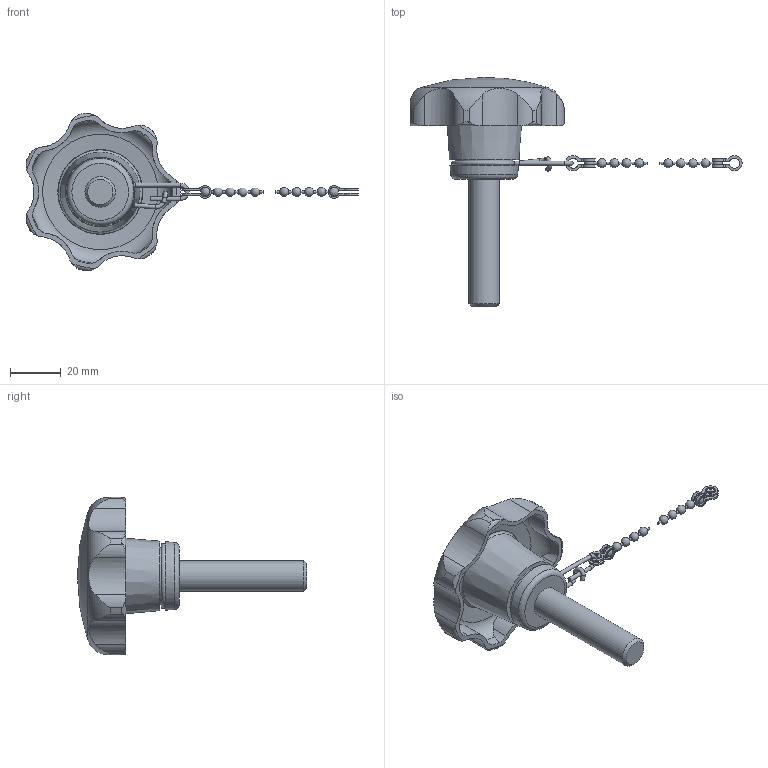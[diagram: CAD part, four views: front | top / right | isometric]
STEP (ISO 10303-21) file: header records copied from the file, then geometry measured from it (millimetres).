
FILE_DESCRIPTION( ( 'STEP AP203' ), '1' );
FILE_NAME( 'C:/Temp/Ganter_Step_05_03_2020/data/2_2/gn_6336_13/gn_6336_13_2/Star knob GN 6336.13-63-M12-50-K.stp', '2020-03-05T12:12:40', ( 'License CC BY-ND 4.0' ), ( 'CADENAS' ), ' ', 'PARTsolutions', ' ' );
FILE_SCHEMA( ( 'CONFIG_CONTROL_DESIGN' ) );
Length unit declared in the file: millimetre
Products named in the file (3): Star knob GN 6336.13-63-M12-50-K; _Star knob GN 6336.13-63-M12-50-K 6; _Star knob GN 111.5-200-14 k2
Assembly tree (2 placements, depth 2):
  Star knob GN 6336.13-63-M12-50-K
    _Star knob GN 6336.13-63-M12-50-K 6
    _Star knob GN 111.5-200-14 k2
Bounding box: 130.4 x 90 x 61.94 mm (x, y, z)
Volume: 46935.2 mm3; surface area: 15368.6 mm2
Topology: 2 solids, 2 shells, 170 faces, 485 edges, 313 vertices
Faces by surface type: cylinder 101, plane 29, torus 18, sphere 11, cone 11
Full cylindrical faces by diameter (mm): 0.9 x10, 1.6 x6, 12 x1, 22.3 x1
Entity records: 6346 total; most frequent: CARTESIAN_POINT 2071, DIRECTION 888, ORIENTED_EDGE 840, EDGE_CURVE 420, AXIS2_PLACEMENT_3D 381, VERTEX_POINT 300, EDGE_LOOP 221, CIRCLE 208
